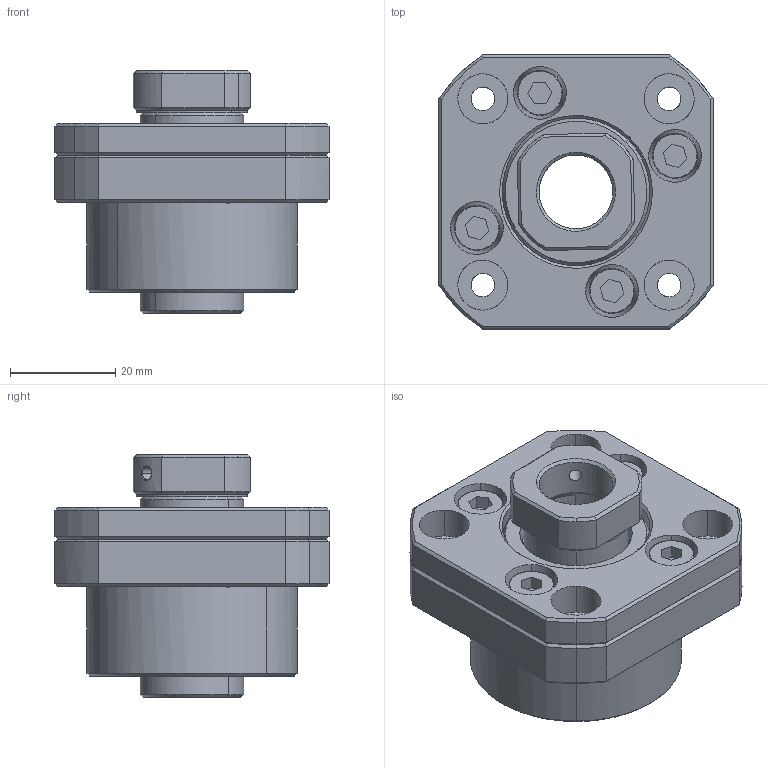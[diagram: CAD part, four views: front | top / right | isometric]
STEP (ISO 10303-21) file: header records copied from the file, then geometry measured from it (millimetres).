
FILE_DESCRIPTION (( 'STEP AP214' ), '1' );
FILE_NAME ('7.4019 FK15.STEP', '2026-03-06T07:35:06', ( '' ), ( '' ), 'SwSTEP 2.0', 'SolidWorks 2025', '' );
FILE_SCHEMA (( 'AUTOMOTIVE_DESIGN' ));
Length unit declared in the file: millimetre
Products named in the file (1): 7.4019 FK15
Bounding box: 52 x 52 x 46 mm (x, y, z)
Surface area: 20099.8 mm2 (no closed solid volume)
Topology: 0 solids, 8 shells, 254 faces, 720 edges, 458 vertices
Faces by surface type: cylinder 79, plane 77, cone 71, bspline 27
Entity records: 13853 total; most frequent: CARTESIAN_POINT 8551, ORIENTED_EDGE 1259, EDGE_CURVE 700, B_SPLINE_CURVE_WITH_KNOTS 651, VERTEX_POINT 458, DIRECTION 456, EDGE_LOOP 290, FACE_OUTER_BOUND 254
